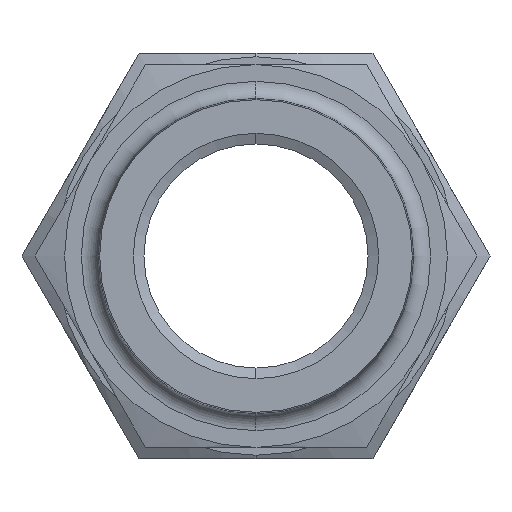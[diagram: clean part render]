
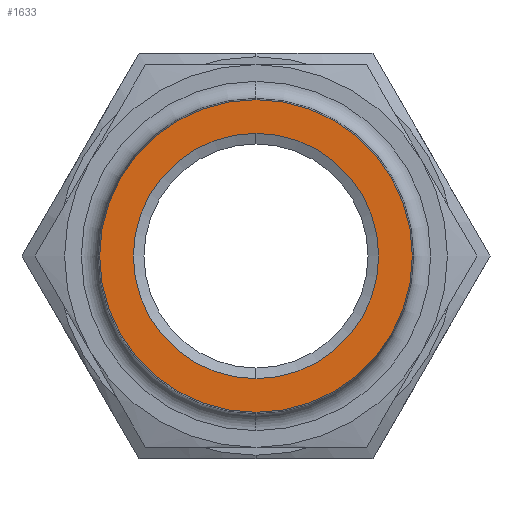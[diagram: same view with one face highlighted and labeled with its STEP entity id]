
A CAD part, left-side view. The second image highlights one B-rep face of the part: STEP entity #1633.
In plain terms, the highlighted planar face has unit normal (-1, 0, 0).
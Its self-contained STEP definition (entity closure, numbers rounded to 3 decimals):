
#568 = CARTESIAN_POINT ( 'NONE',  ( -27., 0., 11.024 ) ) ;
#569 = CARTESIAN_POINT ( 'NONE',  ( -27., 0., -11.024 ) ) ;
#570 = DIRECTION ( 'NONE',  ( 0., 0., 1. ) ) ;
#571 = DIRECTION ( 'NONE',  ( -1., 0., 0. ) ) ;
#572 = CARTESIAN_POINT ( 'NONE',  ( -27., 0., 0. ) ) ;
#573 = AXIS2_PLACEMENT_3D ( 'NONE', #572, #571, #570 ) ;
#574 = CIRCLE ( 'NONE', #573, 11.024 ) ;
#611 = CARTESIAN_POINT ( 'NONE',  ( -27., 0., 8.65 ) ) ;
#612 = DIRECTION ( 'NONE',  ( 0., 0., 1. ) ) ;
#613 = DIRECTION ( 'NONE',  ( -1., 0., 0. ) ) ;
#614 = CARTESIAN_POINT ( 'NONE',  ( -27., 0., 0. ) ) ;
#615 = AXIS2_PLACEMENT_3D ( 'NONE', #614, #613, #612 ) ;
#616 = CIRCLE ( 'NONE', #615, 8.65 ) ;
#617 = CARTESIAN_POINT ( 'NONE',  ( -27., 0., -8.65 ) ) ;
#1060 = VERTEX_POINT ( 'NONE', #617 ) ;
#1062 = EDGE_CURVE ( 'NONE', #1060, #1063, #616, .T. ) ;
#1063 = VERTEX_POINT ( 'NONE', #611 ) ;
#1078 = EDGE_CURVE ( 'NONE', #1079, #1080, #574, .T. ) ;
#1079 = VERTEX_POINT ( 'NONE', #569 ) ;
#1080 = VERTEX_POINT ( 'NONE', #568 ) ;
#1517 = DIRECTION ( 'NONE',  ( 0., 0., 1. ) ) ;
#1518 = DIRECTION ( 'NONE',  ( -1., 0., 0. ) ) ;
#1519 = CARTESIAN_POINT ( 'NONE',  ( -27., 0., 0. ) ) ;
#1520 = AXIS2_PLACEMENT_3D ( 'NONE', #1519, #1518, #1517 ) ;
#1521 = CIRCLE ( 'NONE', #1520, 8.65 ) ;
#1522 = DIRECTION ( 'NONE',  ( 0., 0., 1. ) ) ;
#1523 = DIRECTION ( 'NONE',  ( -1., 0., 0. ) ) ;
#1524 = CARTESIAN_POINT ( 'NONE',  ( -27., 0., 0. ) ) ;
#1525 = AXIS2_PLACEMENT_3D ( 'NONE', #1524, #1523, #1522 ) ;
#1529 = CIRCLE ( 'NONE', #1525, 11.024 ) ;
#1571 = EDGE_CURVE ( 'NONE', #1080, #1079, #1529, .T. ) ;
#1574 = ORIENTED_EDGE ( 'NONE', *, *, #1078, .T. ) ;
#1575 = EDGE_LOOP ( 'NONE', ( #1576, #1578 ) ) ;
#1576 = ORIENTED_EDGE ( 'NONE', *, *, #1577, .F. ) ;
#1577 = EDGE_CURVE ( 'NONE', #1063, #1060, #1521, .T. ) ;
#1578 = ORIENTED_EDGE ( 'NONE', *, *, #1062, .F. ) ;
#1633 = ADVANCED_FACE ( 'NONE', ( #1932, #1931 ), #1961, .T. ) ;
#1634 = ORIENTED_EDGE ( 'NONE', *, *, #1571, .T. ) ;
#1677 = EDGE_LOOP ( 'NONE', ( #1634, #1574 ) ) ;
#1876 = DIRECTION ( 'NONE',  ( 0., 0., 1. ) ) ;
#1877 = DIRECTION ( 'NONE',  ( -1., 0., 0. ) ) ;
#1878 = CARTESIAN_POINT ( 'NONE',  ( -27., 0., 0. ) ) ;
#1879 = AXIS2_PLACEMENT_3D ( 'NONE', #1878, #1877, #1876 ) ;
#1931 = FACE_BOUND ( 'NONE', #1575, .T. ) ;
#1932 = FACE_OUTER_BOUND ( 'NONE', #1677, .T. ) ;
#1961 = PLANE ( 'NONE',  #1879 ) ;
